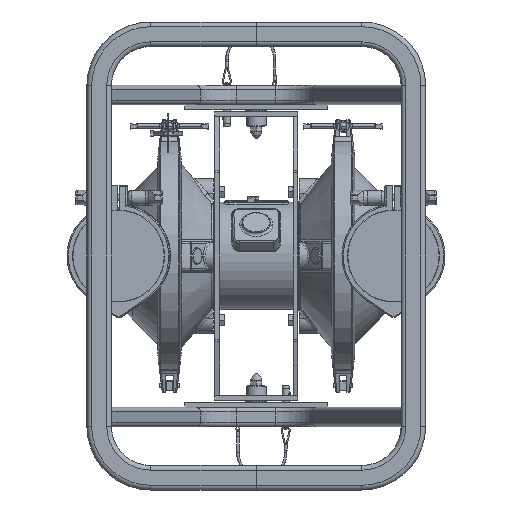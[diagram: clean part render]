
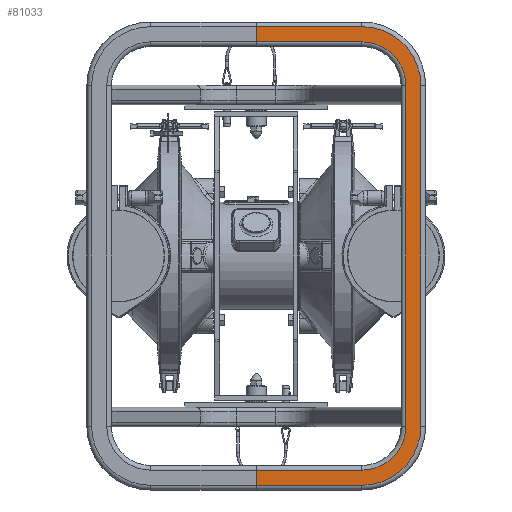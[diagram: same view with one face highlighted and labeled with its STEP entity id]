
A CAD part, front view. The second image highlights one B-rep face of the part: STEP entity #81033.
In plain terms, the highlighted planar face has unit normal (0, -1, 0).
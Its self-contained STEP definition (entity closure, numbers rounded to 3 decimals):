
#80502=DIRECTION('',(-1.,0.,0.));
#80503=VECTOR('',#80502,5.375);
#80504=CARTESIAN_POINT('',(5.375,-21.08,-11.675));
#80505=LINE('',#80504,#80503);
#80506=DIRECTION('',(0.,0.,1.));
#80507=VECTOR('',#80506,0.77);
#80508=CARTESIAN_POINT('',(0.,-21.08,-11.675));
#80509=LINE('',#80508,#80507);
#80510=DIRECTION('',(-1.,0.,0.));
#80511=VECTOR('',#80510,5.375);
#80512=CARTESIAN_POINT('',(5.375,-21.08,-10.905));
#80513=LINE('',#80512,#80511);
#80514=CARTESIAN_POINT('',(5.375,-21.08,-8.665));
#80515=DIRECTION('',(0.,1.,0.));
#80516=DIRECTION('',(1.,0.,0.));
#80517=AXIS2_PLACEMENT_3D('',#80514,#80515,#80516);
#80519=DIRECTION('',(0.,0.,-1.));
#80520=VECTOR('',#80519,17.33);
#80521=CARTESIAN_POINT('',(7.615,-21.08,8.665));
#80522=LINE('',#80521,#80520);
#80523=CARTESIAN_POINT('',(5.375,-21.08,8.665));
#80524=DIRECTION('',(0.,1.,0.));
#80525=DIRECTION('',(0.,0.,1.));
#80526=AXIS2_PLACEMENT_3D('',#80523,#80524,#80525);
#80528=DIRECTION('',(1.,0.,0.));
#80529=VECTOR('',#80528,5.375);
#80530=CARTESIAN_POINT('',(0.,-21.08,10.905));
#80531=LINE('',#80530,#80529);
#80532=DIRECTION('',(0.,0.,1.));
#80533=VECTOR('',#80532,0.77);
#80534=CARTESIAN_POINT('',(0.,-21.08,10.905));
#80535=LINE('',#80534,#80533);
#80536=DIRECTION('',(1.,0.,0.));
#80537=VECTOR('',#80536,5.375);
#80538=CARTESIAN_POINT('',(0.,-21.08,11.675));
#80539=LINE('',#80538,#80537);
#80540=CARTESIAN_POINT('',(5.375,-21.08,8.665));
#80541=DIRECTION('',(0.,1.,0.));
#80542=DIRECTION('',(0.,0.,1.));
#80543=AXIS2_PLACEMENT_3D('',#80540,#80541,#80542);
#80545=DIRECTION('',(0.,0.,-1.));
#80546=VECTOR('',#80545,17.33);
#80547=CARTESIAN_POINT('',(8.385,-21.08,8.665));
#80548=LINE('',#80547,#80546);
#80549=CARTESIAN_POINT('',(5.375,-21.08,-8.665));
#80550=DIRECTION('',(0.,1.,0.));
#80551=DIRECTION('',(1.,0.,0.));
#80552=AXIS2_PLACEMENT_3D('',#80549,#80550,#80551);
#80740=CARTESIAN_POINT('',(0.,-21.08,-11.675));
#80741=VERTEX_POINT('',#80740);
#80742=CARTESIAN_POINT('',(5.375,-21.08,-11.675));
#80743=VERTEX_POINT('',#80742);
#80748=CARTESIAN_POINT('',(8.385,-21.08,-8.665));
#80749=VERTEX_POINT('',#80748);
#80750=CARTESIAN_POINT('',(8.385,-21.08,8.665));
#80751=VERTEX_POINT('',#80750);
#80752=CARTESIAN_POINT('',(5.375,-21.08,11.675));
#80753=VERTEX_POINT('',#80752);
#80754=CARTESIAN_POINT('',(0.,-21.08,11.675));
#80756=VERTEX_POINT('',#80754);
#80758=CARTESIAN_POINT('',(0.,-21.08,-10.905));
#80759=VERTEX_POINT('',#80758);
#80762=CARTESIAN_POINT('',(5.375,-21.08,-10.905));
#80763=VERTEX_POINT('',#80762);
#80764=CARTESIAN_POINT('',(7.615,-21.08,-8.665));
#80765=VERTEX_POINT('',#80764);
#80768=CARTESIAN_POINT('',(7.615,-21.08,8.665));
#80769=VERTEX_POINT('',#80768);
#80770=CARTESIAN_POINT('',(5.375,-21.08,10.905));
#80771=VERTEX_POINT('',#80770);
#80773=CARTESIAN_POINT('',(0.,-21.08,10.905));
#80775=VERTEX_POINT('',#80773);
#81006=CARTESIAN_POINT('',(0.,-21.08,-10.665));
#81007=DIRECTION('',(0.,-1.,0.));
#81008=DIRECTION('',(0.,0.,-1.));
#81009=AXIS2_PLACEMENT_3D('',#81006,#81007,#81008);
#81010=PLANE('',#81009);
#81012=ORIENTED_EDGE('',*,*,#81011,.T.);
#81014=ORIENTED_EDGE('',*,*,#81013,.T.);
#81016=ORIENTED_EDGE('',*,*,#81015,.F.);
#81017=ORIENTED_EDGE('',*,*,#80996,.F.);
#81019=ORIENTED_EDGE('',*,*,#81018,.F.);
#81021=ORIENTED_EDGE('',*,*,#81020,.F.);
#81023=ORIENTED_EDGE('',*,*,#81022,.F.);
#81025=ORIENTED_EDGE('',*,*,#81024,.T.);
#81027=ORIENTED_EDGE('',*,*,#81026,.T.);
#81028=ORIENTED_EDGE('',*,*,#80851,.T.);
#81029=ORIENTED_EDGE('',*,*,#80866,.T.);
#81030=ORIENTED_EDGE('',*,*,#80881,.T.);
#81031=EDGE_LOOP('',(#81012,#81014,#81016,#81017,#81019,#81021,#81023,#81025,
#81027,#81028,#81029,#81030));
#81032=FACE_OUTER_BOUND('',#81031,.F.);
#81033=ADVANCED_FACE('',(#81032),#81010,.T.);
#80518=CIRCLE('',#80517,2.24);
#80527=CIRCLE('',#80526,2.24);
#80544=CIRCLE('',#80543,3.01);
#80553=CIRCLE('',#80552,3.01);
#80851=EDGE_CURVE('',#80753,#80751,#80544,.T.);
#80866=EDGE_CURVE('',#80751,#80749,#80548,.T.);
#80881=EDGE_CURVE('',#80749,#80743,#80553,.T.);
#80996=EDGE_CURVE('',#80765,#80763,#80518,.T.);
#81011=EDGE_CURVE('',#80743,#80741,#80505,.T.);
#81013=EDGE_CURVE('',#80741,#80759,#80509,.T.);
#81015=EDGE_CURVE('',#80763,#80759,#80513,.T.);
#81018=EDGE_CURVE('',#80769,#80765,#80522,.T.);
#81020=EDGE_CURVE('',#80771,#80769,#80527,.T.);
#81022=EDGE_CURVE('',#80775,#80771,#80531,.T.);
#81024=EDGE_CURVE('',#80775,#80756,#80535,.T.);
#81026=EDGE_CURVE('',#80756,#80753,#80539,.T.);
